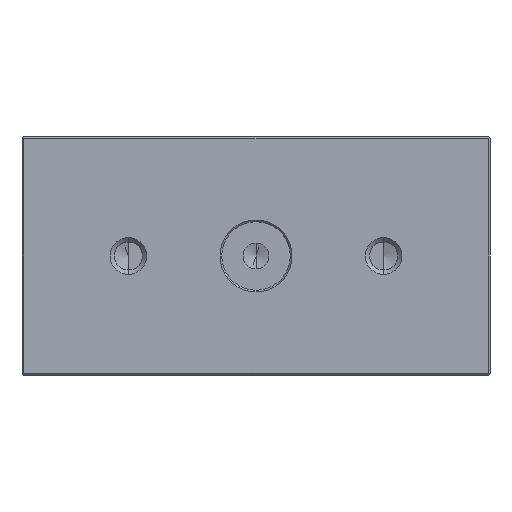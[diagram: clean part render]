
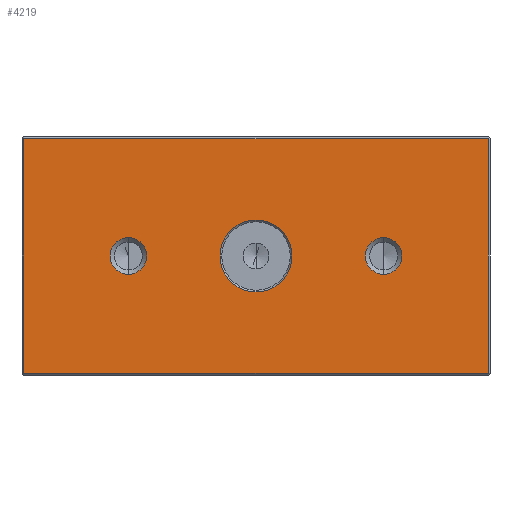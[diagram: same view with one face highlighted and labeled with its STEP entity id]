
A CAD part, front view. The second image highlights one B-rep face of the part: STEP entity #4219.
In plain terms, the highlighted planar face has unit normal (0, -1, 0).
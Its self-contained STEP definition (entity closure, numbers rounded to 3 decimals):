
#21 = VERTEX_POINT ( 'NONE', #364 ) ;
#290 = ORIENTED_EDGE ( 'NONE', *, *, #1398, .T. ) ;
#314 = DIRECTION ( 'NONE',  ( 0., -1., 0. ) ) ;
#364 = CARTESIAN_POINT ( 'NONE',  ( 27.5, 0., 9.775 ) ) ;
#412 = FACE_BOUND ( 'NONE', #6219, .T. ) ;
#562 = CARTESIAN_POINT ( 'NONE',  ( 42.5, 0., 14. ) ) ;
#647 = CARTESIAN_POINT ( 'NONE',  ( 54.8, 0., 0.2 ) ) ;
#651 = LINE ( 'NONE', #4620, #3399 ) ;
#732 = CIRCLE ( 'NONE', #6537, 2.15 ) ;
#807 = DIRECTION ( 'NONE',  ( 0., 0., 1. ) ) ;
#902 = LINE ( 'NONE', #3723, #4790 ) ;
#962 = VERTEX_POINT ( 'NONE', #6910 ) ;
#991 = EDGE_CURVE ( 'NONE', #3379, #5581, #5412, .T. ) ;
#1055 = DIRECTION ( 'NONE',  ( 0., 0., 1. ) ) ;
#1163 = FACE_BOUND ( 'NONE', #2618, .T. ) ;
#1384 = DIRECTION ( 'NONE',  ( 1., 0., 0. ) ) ;
#1398 = EDGE_CURVE ( 'NONE', #5581, #3506, #651, .T. ) ;
#1417 = DIRECTION ( 'NONE',  ( 0., 0., -1. ) ) ;
#1418 = VECTOR ( 'NONE', #1417, 1000. ) ;
#1423 = FACE_OUTER_BOUND ( 'NONE', #2391, .T. ) ;
#1612 = EDGE_CURVE ( 'NONE', #3506, #6870, #902, .T. ) ;
#1633 = ORIENTED_EDGE ( 'NONE', *, *, #1612, .T. ) ;
#2058 = AXIS2_PLACEMENT_3D ( 'NONE', #4507, #6177, #6713 ) ;
#2066 = FACE_BOUND ( 'NONE', #5307, .T. ) ;
#2088 = AXIS2_PLACEMENT_3D ( 'NONE', #5798, #5180, #6811 ) ;
#2315 = DIRECTION ( 'NONE',  ( 0., 0., -1. ) ) ;
#2391 = EDGE_LOOP ( 'NONE', ( #1633, #6493, #2516, #290 ) ) ;
#2425 = EDGE_CURVE ( 'NONE', #3602, #4754, #732, .T. ) ;
#2429 = ORIENTED_EDGE ( 'NONE', *, *, #5886, .F. ) ;
#2432 = AXIS2_PLACEMENT_3D ( 'NONE', #2801, #3924, #3331 ) ;
#2513 = EDGE_CURVE ( 'NONE', #6998, #3828, #6370, .T. ) ;
#2516 = ORIENTED_EDGE ( 'NONE', *, *, #991, .T. ) ;
#2525 = DIRECTION ( 'NONE',  ( 0., 0., -1. ) ) ;
#2618 = EDGE_LOOP ( 'NONE', ( #2429, #4418 ) ) ;
#2801 = CARTESIAN_POINT ( 'NONE',  ( 55., 0., 0. ) ) ;
#2804 = ORIENTED_EDGE ( 'NONE', *, *, #6814, .F. ) ;
#2890 = CARTESIAN_POINT ( 'NONE',  ( 12.5, 0., 14. ) ) ;
#3076 = CARTESIAN_POINT ( 'NONE',  ( 42.5, 0., 16.15 ) ) ;
#3192 = CIRCLE ( 'NONE', #2088, 2.15 ) ;
#3252 = CIRCLE ( 'NONE', #2058, 4.225 ) ;
#3279 = ORIENTED_EDGE ( 'NONE', *, *, #2513, .F. ) ;
#3331 = DIRECTION ( 'NONE',  ( 0., 0., 1. ) ) ;
#3375 = PLANE ( 'NONE',  #2432 ) ;
#3379 = VERTEX_POINT ( 'NONE', #5470 ) ;
#3392 = DIRECTION ( 'NONE',  ( 0., -1., 0. ) ) ;
#3399 = VECTOR ( 'NONE', #1384, 1000. ) ;
#3506 = VERTEX_POINT ( 'NONE', #647 ) ;
#3602 = VERTEX_POINT ( 'NONE', #3076 ) ;
#3645 = CARTESIAN_POINT ( 'NONE',  ( 27.5, 0., 14. ) ) ;
#3723 = CARTESIAN_POINT ( 'NONE',  ( 54.8, 0., 28. ) ) ;
#3744 = AXIS2_PLACEMENT_3D ( 'NONE', #2890, #3392, #2315 ) ;
#3828 = VERTEX_POINT ( 'NONE', #7076 ) ;
#3886 = AXIS2_PLACEMENT_3D ( 'NONE', #3645, #5842, #807 ) ;
#3924 = DIRECTION ( 'NONE',  ( 0., 1., 0. ) ) ;
#4174 = EDGE_CURVE ( 'NONE', #962, #21, #3252, .T. ) ;
#4219 = ADVANCED_FACE ( 'NONE', ( #1423, #412, #1163, #2066 ), #3375, .F. ) ;
#4322 = CARTESIAN_POINT ( 'NONE',  ( 12.5, 0., 11.85 ) ) ;
#4389 = DIRECTION ( 'NONE',  ( 0., 0., -1. ) ) ;
#4418 = ORIENTED_EDGE ( 'NONE', *, *, #2425, .F. ) ;
#4507 = CARTESIAN_POINT ( 'NONE',  ( 27.5, 0., 14. ) ) ;
#4620 = CARTESIAN_POINT ( 'NONE',  ( 55., 0., 0.2 ) ) ;
#4685 = CARTESIAN_POINT ( 'NONE',  ( 55., 0., 27.8 ) ) ;
#4754 = VERTEX_POINT ( 'NONE', #4841 ) ;
#4765 = CARTESIAN_POINT ( 'NONE',  ( 12.5, 0., 14. ) ) ;
#4775 = CARTESIAN_POINT ( 'NONE',  ( 0.2, 0., 0.2 ) ) ;
#4790 = VECTOR ( 'NONE', #1055, 1000. ) ;
#4841 = CARTESIAN_POINT ( 'NONE',  ( 42.5, 0., 11.85 ) ) ;
#5076 = CIRCLE ( 'NONE', #6609, 2.15 ) ;
#5124 = EDGE_CURVE ( 'NONE', #21, #962, #6375, .T. ) ;
#5173 = EDGE_CURVE ( 'NONE', #6870, #3379, #6564, .T. ) ;
#5180 = DIRECTION ( 'NONE',  ( 0., -1., 0. ) ) ;
#5222 = DIRECTION ( 'NONE',  ( -1., 0., 0. ) ) ;
#5307 = EDGE_LOOP ( 'NONE', ( #3279, #2804 ) ) ;
#5377 = CARTESIAN_POINT ( 'NONE',  ( 54.8, 0., 27.8 ) ) ;
#5412 = LINE ( 'NONE', #6420, #1418 ) ;
#5470 = CARTESIAN_POINT ( 'NONE',  ( 0.2, 0., 27.8 ) ) ;
#5471 = VECTOR ( 'NONE', #5222, 1000. ) ;
#5581 = VERTEX_POINT ( 'NONE', #4775 ) ;
#5702 = ORIENTED_EDGE ( 'NONE', *, *, #5124, .T. ) ;
#5798 = CARTESIAN_POINT ( 'NONE',  ( 42.5, 0., 14. ) ) ;
#5842 = DIRECTION ( 'NONE',  ( 0., 1., 0. ) ) ;
#5886 = EDGE_CURVE ( 'NONE', #4754, #3602, #3192, .T. ) ;
#6177 = DIRECTION ( 'NONE',  ( 0., 1., 0. ) ) ;
#6219 = EDGE_LOOP ( 'NONE', ( #5702, #6225 ) ) ;
#6225 = ORIENTED_EDGE ( 'NONE', *, *, #4174, .T. ) ;
#6370 = CIRCLE ( 'NONE', #3744, 2.15 ) ;
#6375 = CIRCLE ( 'NONE', #3886, 4.225 ) ;
#6420 = CARTESIAN_POINT ( 'NONE',  ( 0.2, 0., 0. ) ) ;
#6493 = ORIENTED_EDGE ( 'NONE', *, *, #5173, .T. ) ;
#6537 = AXIS2_PLACEMENT_3D ( 'NONE', #562, #7165, #4389 ) ;
#6564 = LINE ( 'NONE', #4685, #5471 ) ;
#6609 = AXIS2_PLACEMENT_3D ( 'NONE', #4765, #314, #2525 ) ;
#6713 = DIRECTION ( 'NONE',  ( 0., 0., 1. ) ) ;
#6811 = DIRECTION ( 'NONE',  ( 0., 0., -1. ) ) ;
#6814 = EDGE_CURVE ( 'NONE', #3828, #6998, #5076, .T. ) ;
#6870 = VERTEX_POINT ( 'NONE', #5377 ) ;
#6910 = CARTESIAN_POINT ( 'NONE',  ( 27.5, 0., 18.225 ) ) ;
#6998 = VERTEX_POINT ( 'NONE', #4322 ) ;
#7076 = CARTESIAN_POINT ( 'NONE',  ( 12.5, 0., 16.15 ) ) ;
#7165 = DIRECTION ( 'NONE',  ( 0., -1., 0. ) ) ;
